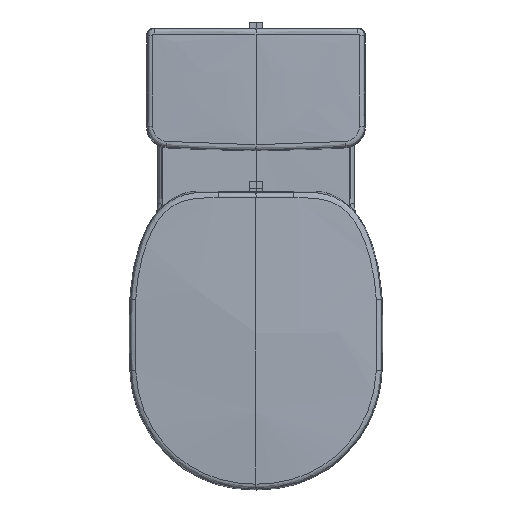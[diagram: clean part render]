
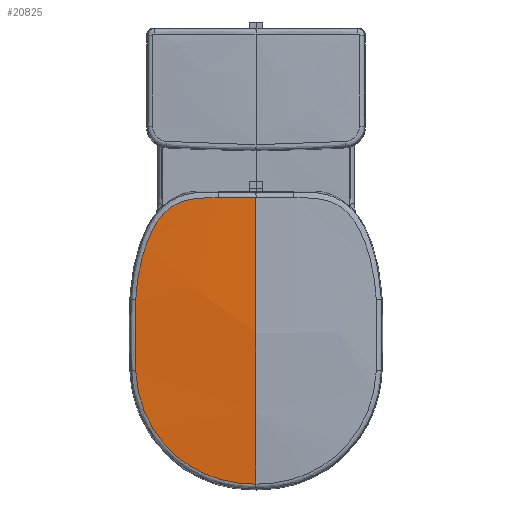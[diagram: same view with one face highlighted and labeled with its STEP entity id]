
A CAD part, top view. The second image highlights one B-rep face of the part: STEP entity #20825.
In plain terms, the highlighted free-form (B-spline) face has degree [3, 3] with [5, 4] control points.
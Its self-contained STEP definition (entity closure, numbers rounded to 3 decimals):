
#19951=CARTESIAN_POINT('',(-173.275,41.319,
263.343));
#19952=CARTESIAN_POINT('',(-173.143,41.258,
266.098));
#19953=CARTESIAN_POINT('',(-172.826,41.134,
271.601));
#19954=CARTESIAN_POINT('',(-171.707,40.911,
282.567));
#19955=CARTESIAN_POINT('',(-169.342,40.687,
296.15));
#19956=CARTESIAN_POINT('',(-164.87,40.519,
312.08));
#19957=CARTESIAN_POINT('',(-156.841,40.412,
332.625));
#19958=CARTESIAN_POINT('',(-143.088,40.467,
356.632));
#19959=CARTESIAN_POINT('',(-121.317,40.612,
381.702));
#19960=CARTESIAN_POINT('',(-99.396,40.612,
398.598));
#19961=CARTESIAN_POINT('',(-80.091,40.532,
409.281));
#19962=CARTESIAN_POINT('',(-59.81,40.419,
417.947));
#19963=CARTESIAN_POINT('',(-33.049,40.264,
424.959));
#19964=CARTESIAN_POINT('',(-11.008,40.212,
426.627));
#19965=CARTESIAN_POINT('',(0.,40.212,
426.633));
#19967=CARTESIAN_POINT('',(-173.318,42.672,
160.21));
#19968=CARTESIAN_POINT('',(-174.041,42.584,
177.392));
#19969=CARTESIAN_POINT('',(-174.644,42.361,
203.204));
#19970=CARTESIAN_POINT('',(-174.319,41.913,
233.284));
#19971=CARTESIAN_POINT('',(-173.821,41.596,
250.477));
#19972=CARTESIAN_POINT('',(-173.48,41.415,
259.051));
#19973=CARTESIAN_POINT('',(-173.275,41.319,
263.343));
#19975=CARTESIAN_POINT('',(-54.501,46.799,
13.509));
#19976=CARTESIAN_POINT('',(-59.132,46.666,
13.432));
#19977=CARTESIAN_POINT('',(-68.365,46.381,
13.535));
#19978=CARTESIAN_POINT('',(-82.122,45.897,
14.107));
#19979=CARTESIAN_POINT('',(-95.694,45.401,
15.927));
#19980=CARTESIAN_POINT('',(-108.81,44.938,
19.694));
#19981=CARTESIAN_POINT('',(-120.853,44.551,
25.933));
#19982=CARTESIAN_POINT('',(-134.741,44.153,
37.4));
#19983=CARTESIAN_POINT('',(-147.89,43.801,
56.065));
#19984=CARTESIAN_POINT('',(-158.765,43.443,
81.091));
#19985=CARTESIAN_POINT('',(-165.03,43.181,
102.988));
#19986=CARTESIAN_POINT('',(-168.709,42.996,
120.619));
#19987=CARTESIAN_POINT('',(-170.87,42.87,
133.845));
#19988=CARTESIAN_POINT('',(-172.395,42.763,
147.078));
#19989=CARTESIAN_POINT('',(-173.062,42.701,
155.831));
#19990=CARTESIAN_POINT('',(-173.318,42.672,
160.21));
#19992=CARTESIAN_POINT('',(0.,47.596,
13.509));
#19993=CARTESIAN_POINT('',(-6.605,47.596,
13.506));
#19994=CARTESIAN_POINT('',(-19.459,47.521,
13.511));
#19995=CARTESIAN_POINT('',(-37.642,47.234,
13.526));
#19996=CARTESIAN_POINT('',(-49.009,46.954,
13.518));
#19997=CARTESIAN_POINT('',(-54.501,46.799,
13.509));
#19999=CARTESIAN_POINT('',(0.,47.596,
13.509));
#20000=CARTESIAN_POINT('',(0.,52.78,
129.147));
#20001=CARTESIAN_POINT('',(0.,54.386,
280.559));
#20002=CARTESIAN_POINT('',(0.,40.212,
426.633));
#20487=VERTEX_POINT('',#19975);
#20488=VERTEX_POINT('',#19990);
#20489=VERTEX_POINT('',#19973);
#20505=VERTEX_POINT('',#19999);
#20506=VERTEX_POINT('',#20002);
#20793=CARTESIAN_POINT('',(0.,40.212,
426.633));
#20794=CARTESIAN_POINT('',(-62.006,40.212,
426.633));
#20795=CARTESIAN_POINT('',(-113.035,39.781,
412.699));
#20796=CARTESIAN_POINT('',(-149.586,36.846,
394.271));
#20797=CARTESIAN_POINT('',(0.,54.386,
280.559));
#20798=CARTESIAN_POINT('',(-62.006,54.386,
280.559));
#20799=CARTESIAN_POINT('',(-123.106,50.748,
279.527));
#20800=CARTESIAN_POINT('',(-183.097,43.507,
278.207));
#20801=CARTESIAN_POINT('',(0.,52.751,
126.414));
#20802=CARTESIAN_POINT('',(-62.006,52.751,
126.414));
#20803=CARTESIAN_POINT('',(-123.775,48.897,
126.646));
#20804=CARTESIAN_POINT('',(-185.085,41.826,
127.342));
#20805=CARTESIAN_POINT('',(0.,47.408,
9.346));
#20806=CARTESIAN_POINT('',(-62.006,47.408,
9.346));
#20807=CARTESIAN_POINT('',(-120.464,44.519,
18.49));
#20808=CARTESIAN_POINT('',(-166.323,42.479,
42.064));
#20809=CARTESIAN_POINT('',(0.,47.312,
7.282));
#20810=CARTESIAN_POINT('',(-62.006,47.312,
7.282));
#20811=CARTESIAN_POINT('',(-120.404,44.441,
16.586));
#20812=CARTESIAN_POINT('',(-165.983,42.491,
40.573));
#20813=B_SPLINE_SURFACE_WITH_KNOTS('',3,3,((#20793,#20794,#20795,#20796),
(#20797,#20798,#20799,#20800),(#20801,#20802,#20803,#20804),(#20805,#20806,
#20807,#20808),(#20809,#20810,#20811,#20812)),.UNSPECIFIED.,.F.,.F.,.F.,(4,1,4),
(4,4),(13.315,422.27,429.653),(0.,
186.402),.UNSPECIFIED.);
#20815=ORIENTED_EDGE('',*,*,#20814,.T.);
#20817=ORIENTED_EDGE('',*,*,#20816,.F.);
#20819=ORIENTED_EDGE('',*,*,#20818,.F.);
#20821=ORIENTED_EDGE('',*,*,#20820,.F.);
#20822=ORIENTED_EDGE('',*,*,#20782,.F.);
#20823=EDGE_LOOP('',(#20815,#20817,#20819,#20821,#20822));
#20824=FACE_OUTER_BOUND('',#20823,.F.);
#20825=ADVANCED_FACE('',(#20824),#20813,.F.);
#19966=B_SPLINE_CURVE_WITH_KNOTS('',3,(#19951,#19952,#19953,#19954,#19955,
#19956,#19957,#19958,#19959,#19960,#19961,#19962,#19963,#19964,#19965),
.UNSPECIFIED.,.F.,.F.,(4,1,1,1,1,1,1,1,1,1,1,1,4),(0.,0.031,
0.063,0.125,0.187,0.25,
0.375,0.5,0.625,0.687,
0.75,0.875,1.),.UNSPECIFIED.);
#19974=B_SPLINE_CURVE_WITH_KNOTS('',3,(#19967,#19968,#19969,#19970,#19971,
#19972,#19973),.UNSPECIFIED.,.F.,.F.,(4,1,1,1,4),(0.,0.5,
0.75,0.875,1.),.UNSPECIFIED.);
#19991=B_SPLINE_CURVE_WITH_KNOTS('',3,(#19975,#19976,#19977,#19978,#19979,
#19980,#19981,#19982,#19983,#19984,#19985,#19986,#19987,#19988,#19989,#19990),
.UNSPECIFIED.,.F.,.F.,(4,1,1,1,1,1,1,1,1,1,1,1,1,4),(0.,0.061,
0.122,0.182,0.243,0.304,
0.365,0.486,0.615,0.743,
0.807,0.872,0.936,1.),.UNSPECIFIED.);
#19998=B_SPLINE_CURVE_WITH_KNOTS('',3,(#19992,#19993,#19994,#19995,#19996,
#19997),.UNSPECIFIED.,.F.,.F.,(4,1,1,4),(0.,0.333,
0.667,1.),.UNSPECIFIED.);
#20003=B_SPLINE_CURVE_WITH_KNOTS('',3,(#19999,#20000,#20001,#20002),
.UNSPECIFIED.,.F.,.F.,(4,4),(0.,1.),.UNSPECIFIED.);
#20782=EDGE_CURVE('',#20505,#20487,#19998,.T.);
#20814=EDGE_CURVE('',#20505,#20506,#20003,.T.);
#20816=EDGE_CURVE('',#20489,#20506,#19966,.T.);
#20818=EDGE_CURVE('',#20488,#20489,#19974,.T.);
#20820=EDGE_CURVE('',#20487,#20488,#19991,.T.);
